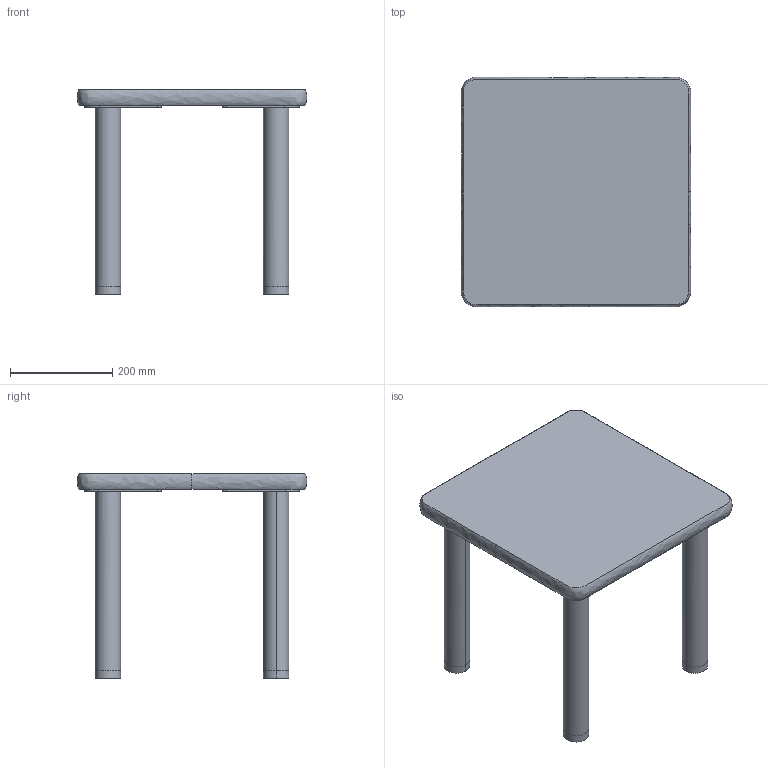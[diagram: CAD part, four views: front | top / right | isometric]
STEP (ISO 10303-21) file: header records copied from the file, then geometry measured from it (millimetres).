
FILE_DESCRIPTION(/* description */ (''),/* implementation_level */ '2;1');
FILE_NAME(/* name */ 'kinoshita_baobabland_kh-450-450',/* time_stamp */ '2025-04-18T19:46:18+09:00',/* author */ (''),/* organization */ (''),/* preprocessor_version */ 'ST-DEVELOPER v16.5',/* originating_system */ '',/* authorisation */ '');
FILE_SCHEMA (('AUTOMOTIVE_DESIGN'));
Length unit declared in the file: millimetre
Products named in the file (1): Document
Bounding box: 450.01 x 450.01 x 400 mm (x, y, z)
Volume: 9026950.3 mm3; surface area: 784378.6 mm2
Topology: 5 solids, 5 shells, 108 faces, 280 edges, 178 vertices
Faces by surface type: bspline 98, plane 10
Entity records: 5198 total; most frequent: CARTESIAN_POINT 3579, ORIENTED_EDGE 544, EDGE_CURVE 272, VERTEX_POINT 178, EDGE_LOOP 160, ADVANCED_FACE 108, FACE_OUTER_BOUND 108, B_SPLINE_CURVE_WITH_KNOTS 104
